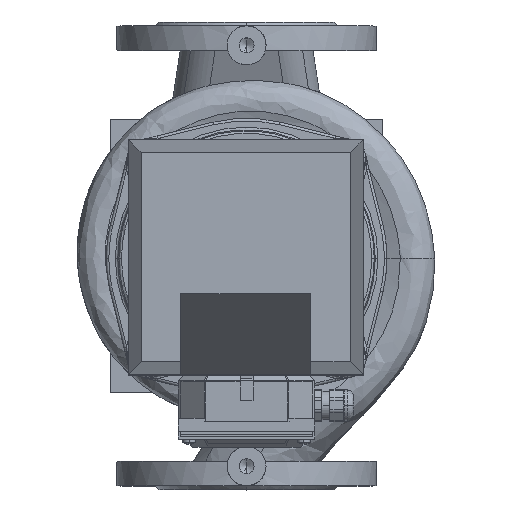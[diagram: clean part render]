
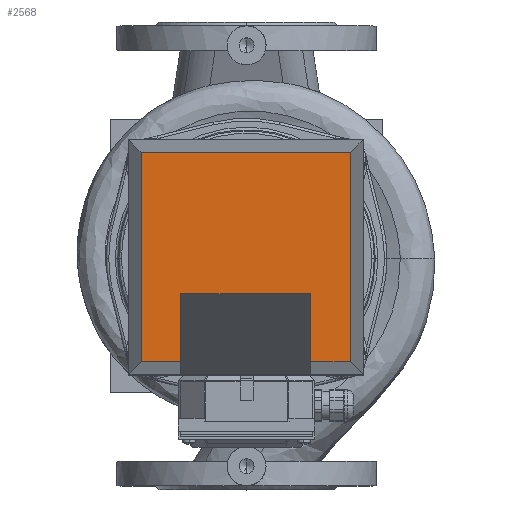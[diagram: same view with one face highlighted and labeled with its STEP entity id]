
A CAD part, top view. The second image highlights one B-rep face of the part: STEP entity #2568.
In plain terms, the highlighted planar face has unit normal (0, 0, 1) as drawn and (0, 1, 0) by its records, which use the part's own axes.
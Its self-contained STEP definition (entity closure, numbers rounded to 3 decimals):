
#2568=ADVANCED_FACE('',(#4780),#4781,.T.);
#2578=EDGE_CURVE('',#4793,#4796,#4797,.T.);
#4780=FACE_OUTER_BOUND('',#12082,.T.);
#4781=PLANE('',#12083);
#4793=VERTEX_POINT('',#12096);
#4796=VERTEX_POINT('',#12101);
#4797=LINE('',#12102,#12103);
#12082=EDGE_LOOP('',(#20493,#20494,#20495,#20496,#20497,#20498,#20499,#20500));
#12083=AXIS2_PLACEMENT_3D('',#20501,#20502,#20503);
#12096=CARTESIAN_POINT('',(50.0,114.0,118.64));
#12101=CARTESIAN_POINT('',(50.0,114.0,171.0));
#12102=CARTESIAN_POINT('',(50.0,114.0,90.179));
#12103=VECTOR('',#20529,1.0);
#20493=ORIENTED_EDGE('',*,*,#2578,.T.);
#20494=ORIENTED_EDGE('',*,*,#34513,.F.);
#20495=ORIENTED_EDGE('',*,*,#34521,.F.);
#20496=ORIENTED_EDGE('',*,*,#34523,.F.);
#20497=ORIENTED_EDGE('',*,*,#34515,.F.);
#20498=ORIENTED_EDGE('',*,*,#34509,.F.);
#20499=ORIENTED_EDGE('',*,*,#34502,.T.);
#20500=ORIENTED_EDGE('',*,*,#34505,.T.);
#20501=CARTESIAN_POINT('',(0.0,114.0,0.0));
#20502=DIRECTION('',(0.0,1.0,-0.0));
#20503=DIRECTION('',(-1.0,0.0,0.0));
#20529=DIRECTION('',(0.0,0.0,1.0));
#34502=EDGE_CURVE('',#53533,#53535,#53537,.T.);
#34505=EDGE_CURVE('',#53535,#4793,#53540,.T.);
#34509=EDGE_CURVE('',#53533,#53544,#53545,.T.);
#34513=EDGE_CURVE('',#53550,#4796,#53552,.T.);
#34515=EDGE_CURVE('',#53544,#53554,#53555,.T.);
#34521=EDGE_CURVE('',#53560,#53550,#53562,.T.);
#34523=EDGE_CURVE('',#53554,#53560,#53564,.T.);
#53533=VERTEX_POINT('',#63304);
#53535=VERTEX_POINT('',#63307);
#53537=LINE('',#63310,#63311);
#53540=LINE('',#63315,#63316);
#53544=VERTEX_POINT('',#63321);
#53545=LINE('',#63322,#63323);
#53550=VERTEX_POINT('',#63330);
#53552=LINE('',#63333,#63334);
#53554=VERTEX_POINT('',#63336);
#53555=LINE('',#63337,#63338);
#53560=VERTEX_POINT('',#63346);
#53562=LINE('',#63349,#63350);
#53564=LINE('',#63352,#63353);
#63304=CARTESIAN_POINT('',(-50.0,114.0,171.0));
#63307=CARTESIAN_POINT('',(-50.0,114.0,118.64));
#63310=CARTESIAN_POINT('',(-50.0,114.0,90.179));
#63311=VECTOR('',#73511,1.0);
#63315=CARTESIAN_POINT('',(25.0,114.0,118.64));
#63316=VECTOR('',#73513,1.0);
#63321=CARTESIAN_POINT('',(-80.5,114.0,171.0));
#63322=CARTESIAN_POINT('',(45.25,114.0,171.0));
#63323=VECTOR('',#73515,1.0);
#63330=CARTESIAN_POINT('',(80.5,114.0,171.0));
#63333=CARTESIAN_POINT('',(45.25,114.0,171.0));
#63334=VECTOR('',#73519,1.0);
#63336=CARTESIAN_POINT('',(-80.5,114.0,10.0));
#63337=CARTESIAN_POINT('',(-80.5,114.0,0.0));
#63338=VECTOR('',#73520,1.0);
#63346=CARTESIAN_POINT('',(80.5,114.0,10.0));
#63349=CARTESIAN_POINT('',(80.5,114.0,0.0));
#63350=VECTOR('',#73525,1.0);
#63352=CARTESIAN_POINT('',(45.25,114.0,10.0));
#63353=VECTOR('',#73526,1.0);
#73511=DIRECTION('',(-0.0,0.0,-1.0));
#73513=DIRECTION('',(1.0,-0.0,0.0));
#73515=DIRECTION('',(-1.0,0.0,-0.0));
#73519=DIRECTION('',(-1.0,0.0,-0.0));
#73520=DIRECTION('',(-0.0,-0.0,-1.0));
#73525=DIRECTION('',(-0.0,0.0,1.0));
#73526=DIRECTION('',(1.0,-0.0,-0.0));
